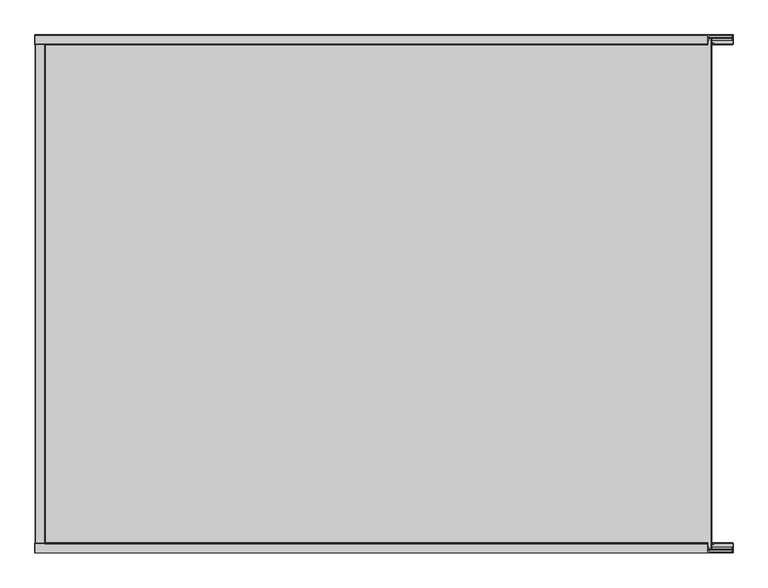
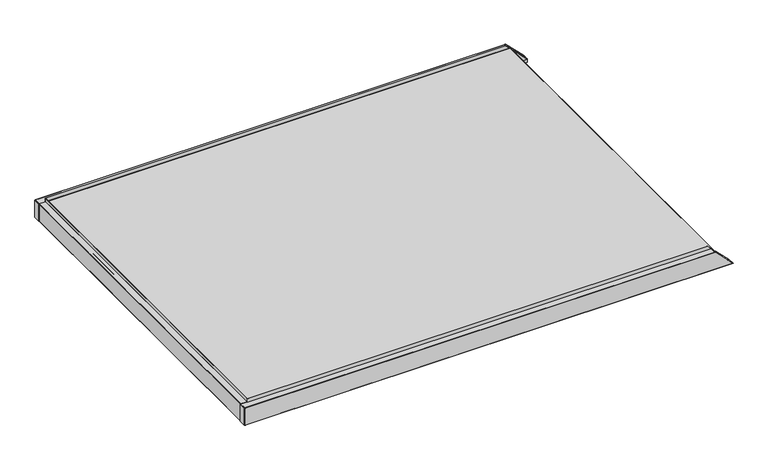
"""IFC4 building model written with IfcOpenShell, lengths in millimetres: proxy geometry, Specialy Equipment_Blindspace_Standard-Pockets-for-Roller-Blinds : 3500 mm x 2600 mm with 130 x 130 mm Box."""

from ifc_helpers import new_model, si_unit, point, frame, frame_2d, origin, place, context, project, spatial, polyline, circle_curve, ellipse_curve, trimmed, segment, composite_curve, outline, extrude, source, transform, mapped, element, save
from ifc_brep_helpers import plane_surface, cylinder_surface, advanced_brep


def specialty_equipment_aaa6b72d(model_context):
    return source(origin(), model_context, "Body", "SolidModel", [
        extrude(outline(polyline([(-1702.7519052, -1250.0), (-1704.2337728, -1250.0), (-1704.2337728, 1250.0), (-1702.7519052, 1250.0), (-1702.7519052, -1250.0)])), frame((0.0, 0.0, -25.0), z_axis=(0.0, 0.0, 1.0), x_axis=(1.0, 0.0, 0.0)), (0.0, 0.0, 1.0), 25.0211686),
        extrude(outline(polyline([(-1702.7519052, -1250.0), (-1704.2337728, -1250.0), (-1704.2337728, 1250.0), (-1702.7519052, 1250.0), (-1702.7519052, -1250.0)])), frame((0.0, 0.0, -180.0211687), z_axis=(0.0, 0.0, 1.0), x_axis=(1.0, 0.0, 0.0)), (0.0, 0.0, 1.0), 25.0211686),
        extrude(outline(composite_curve([segment(polyline([(-154.9999999, -1749.25), (-154.9999999, -1702.9175768), (-152.4999999, -1700.0), (-56.4999999, -1700.0), (-56.4999999, -1707.4875145), (-58.9999999, -1707.4875145), (-58.9999999, -1702.4875145), (-152.4999999, -1702.4875145), (-152.4999999, -1723.0149627), (-147.1999999, -1723.0149627), (-147.1999999, -1729.9597598), (-152.4999999, -1729.9597598), (-152.4999999, -1738.0030209), (-147.1999999, -1738.0030209), (-147.1999999, -1744.991), (-152.4999999, -1744.991), (-152.4999999, -1747.5), (-27.5, -1747.5), (-27.5, -1744.991), (-32.8, -1744.991), (-32.8, -1738.0030209), (-27.5, -1738.0030209), (-27.5, -1729.9597598), (-32.8, -1729.9597598), (-32.8, -1723.0149627), (-27.5, -1723.0149627), (-27.5, -1700.0), (-25.0, -1702.9175768), (-25.0, -1749.25)]), True, "CONTINUOUS"), segment(trimmed(circle_curve(frame_2d((-25.75, -1749.25)), 0.75), [point((-25.0, -1749.25))], [point((-25.75, -1750.0))], False, "CARTESIAN"), True, "CONTINUOUS"), segment(polyline([(-25.75, -1750.0), (-154.2499999, -1750.0)]), True, "CONTINUOUS"), segment(trimmed(circle_curve(frame_2d((-154.2499999, -1749.25)), 0.75), [point((-154.2499999, -1750.0))], [point((-154.9999999, -1749.25))], False, "CARTESIAN"), True, "CONTINUOUS")], self_intersect=False)), frame((0.0, -1250.0, 0.0), z_axis=(0.0, 1.0, 0.0), x_axis=(0.0, 0.0, 1.0)), (0.0, 0.0, 1.0), 2500.0),
        extrude(outline(polyline([(0.0211686, -1704.2), (-25.0, -1704.2), (-25.0, 1620.0), (0.0211686, 1594.9788314), (0.0211686, -1704.2)])), frame((0.0, -1254.2337728, 0.0), z_axis=(0.0, 1.0, 0.0), x_axis=(0.0, 0.0, 1.0)), (0.0, 0.0, 1.0), 1.4818676),
        extrude(outline(polyline([(-1704.2, -1254.2337728), (-1704.2, -1252.7519052), (1750.0, -1252.7519052), (1750.0, -1254.2337728), (-1704.2, -1254.2337728)])), frame((0.0, 0.0, -180.0211687), z_axis=(0.0, 0.0, 1.0), x_axis=(1.0, 0.0, 0.0)), (0.0, 0.0, 1.0), 25.0211686),
        advanced_brep(
        [(-1750.0, -1299.25, -154.9999999), (-1750.0, -1300.0, -154.2499999), (-1750.0, -1300.0, -25.75), (-1750.0, -1299.25, -25.0), (-1750.0, -1252.9175768, -25.0), (-1750.0, -1250.0, -27.5), (-1750.0, -1273.0149627, -27.5), (-1750.0, -1273.0149627, -32.8), (-1750.0, -1279.9597598, -32.8), (-1750.0, -1279.9597598, -27.5), (-1750.0, -1288.0030209, -27.5), (-1750.0, -1288.0030209, -32.8), (-1750.0, -1294.991, -32.8), (-1750.0, -1294.991, -27.5), (-1750.0, -1297.5, -27.5), (-1750.0, -1297.5, -152.4999999), (-1750.0, -1294.991, -152.4999999), (-1750.0, -1294.991, -147.1999999), (-1750.0, -1288.0030209, -147.1999999), (-1750.0, -1288.0030209, -152.4999999), (-1750.0, -1279.9597598, -152.4999999), (-1750.0, -1279.9597598, -147.1999999), (-1750.0, -1273.0149627, -147.1999999), (-1750.0, -1273.0149627, -152.4999999), (-1750.0, -1252.4875145, -152.4999999), (-1750.0, -1252.4875145, -58.9999999), (-1750.0, -1257.4875145, -58.9999999), (-1750.0, -1257.4875145, -56.4999999), (-1750.0, -1250.0, -56.4999999), (-1750.0, -1250.0, -152.4999999), (-1750.0, -1252.9175768, -154.9999999), (1750.0, -1252.9175768, -154.9999999), (1749.9999999, -1299.25, -154.9999999), (1747.4999999, -1250.0, -152.4999999), (1747.4999999, -1273.0149627, -152.4999999), (1747.4999999, -1252.4875145, -152.4999999), (1742.1999999, -1273.0149627, -147.1999999), (1742.1999999, -1279.9597598, -147.1999999), (1747.4999999, -1279.9597598, -152.4999999), (1747.4999999, -1288.0030209, -152.4999999), (1742.1999999, -1288.0030209, -147.1999999), (1742.1999999, -1294.991, -147.1999999), (1747.4999999, -1294.991, -152.4999999), (1747.4999999, -1297.5, -152.4999999), (1622.5, -1297.5, -27.5), (1622.5, -1294.991, -27.5), (1627.8, -1294.991, -32.8), (1627.8, -1288.0030209, -32.8), (1622.5, -1288.0030209, -27.5), (1622.5, -1279.9597598, -27.5), (1627.8, -1279.9597598, -32.8), (1627.8, -1273.0149627, -32.8), (1622.5, -1273.0149627, -27.5), (1622.5, -1250.0, -27.5), (1620.0, -1252.9175768, -25.0), (1620.0, -1299.25, -25.0), (1620.75, -1300.0, -25.75), (1749.2499999, -1300.0, -154.2499999), (1651.4999999, -1250.0, -56.4999999), (1651.4999999, -1257.4875145, -56.4999999), (1653.9999999, -1257.4875145, -58.9999999), (1653.9999999, -1252.4875145, -58.9999999)],
        [
            (0, 1, circle_curve(frame((-1750.0, -1299.25, -154.2499999), z_axis=(-1.0, 0.0, 0.0), x_axis=(0.0, 1.0, 0.0)), 0.75)),
            (1, 2),
            (2, 3, circle_curve(frame((-1750.0, -1299.25, -25.75), z_axis=(-1.0, 0.0, 0.0), x_axis=(0.0, 1.0, 0.0)), 0.75)),
            (3, 4),
            (4, 5),
            (5, 6),
            (6, 7),
            (7, 8),
            (8, 9),
            (9, 10),
            (10, 11),
            (11, 12),
            (12, 13),
            (13, 14),
            (14, 15),
            (15, 16),
            (16, 17),
            (17, 18),
            (18, 19),
            (19, 20),
            (20, 21),
            (21, 22),
            (22, 23),
            (23, 24),
            (24, 25),
            (25, 26),
            (26, 27),
            (27, 28),
            (28, 29),
            (29, 30),
            (30, 0),
            (30, 31),
            (31, 32),
            (32, 0),
            (29, 33),
            (33, 31),
            (23, 34),
            (34, 35),
            (35, 24),
            (22, 36),
            (36, 34),
            (21, 37),
            (37, 36),
            (20, 38),
            (38, 37),
            (19, 39),
            (39, 38),
            (18, 40),
            (40, 39),
            (17, 41),
            (41, 40),
            (16, 42),
            (42, 41),
            (15, 43),
            (43, 42),
            (14, 44),
            (44, 43),
            (13, 45),
            (45, 44),
            (12, 46),
            (46, 45),
            (11, 47),
            (47, 46),
            (10, 48),
            (48, 47),
            (9, 49),
            (49, 48),
            (8, 50),
            (50, 49),
            (7, 51),
            (51, 50),
            (6, 52),
            (52, 51),
            (5, 53),
            (53, 52),
            (4, 54),
            (54, 53),
            (3, 55),
            (55, 54),
            (2, 56),
            (56, 55, ellipse_curve(frame((1620.75, -1299.25, -25.75), z_axis=(-0.7071067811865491, 0.0, -0.7071067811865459), x_axis=(-0.707106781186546, 0.0, 0.7071067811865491)), 1.0606602, 0.75)),
            (1, 57),
            (57, 56),
            (32, 57, ellipse_curve(frame((1749.2499999, -1299.25, -154.2499999), z_axis=(-0.7071067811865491, 0.0, -0.7071067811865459), x_axis=(-0.707106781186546, 0.0, 0.7071067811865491)), 1.0606602, 0.75)),
            (28, 58),
            (58, 33),
            (27, 59),
            (59, 58),
            (26, 60),
            (60, 59),
            (25, 61),
            (61, 60),
            (35, 61),
        ],
        [
            plane_surface(frame((-1750.0, -1300.0, -25.0), z_axis=(-1.0, 0.0, 0.0), x_axis=(0.0, 0.0, 1.0))),
            plane_surface(frame((-1750.0, -1252.9175768, -154.9999999), z_axis=(0.0, 0.0, -1.0), x_axis=(1.0, 0.0, 0.0))),
            plane_surface(frame((-1750.0, -1250.0, -152.4999999), z_axis=(0.0, 0.650674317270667, -0.7593569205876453), x_axis=(1.0, 0.0, 0.0))),
            plane_surface(frame((-1750.0, -1273.0149627, -152.4999999), z_axis=(0.0, 0.0, 1.0), x_axis=(1.0, 0.0, 0.0))),
            plane_surface(frame((-1750.0, -1273.0149627, -147.1999999), z_axis=(0.0, 1.0, 0.0), x_axis=(1.0, 0.0, 0.0))),
            plane_surface(frame((-1750.0, -1279.9597598, -147.1999999), z_axis=(0.0, 0.0, 1.0), x_axis=(1.0, 0.0, 0.0))),
            plane_surface(frame((-1750.0, -1279.9597598, -152.4999999), z_axis=(0.0, -1.0, 0.0), x_axis=(1.0, 0.0, 0.0))),
            plane_surface(frame((-1750.0, -1288.0030209, -152.4999999), z_axis=(0.0, 0.0, 1.0), x_axis=(1.0, 0.0, 0.0))),
            plane_surface(frame((-1750.0, -1288.0030209, -147.1999999), z_axis=(0.0, 1.0, 0.0), x_axis=(1.0, 0.0, 0.0))),
            plane_surface(frame((-1750.0, -1294.991, -147.1999999), z_axis=(0.0, 0.0, 1.0), x_axis=(1.0, 0.0, 0.0))),
            plane_surface(frame((-1750.0, -1294.991, -152.4999999), z_axis=(0.0, -1.0, 0.0), x_axis=(1.0, 0.0, 0.0))),
            plane_surface(frame((-1750.0, -1297.5, -152.4999999), z_axis=(0.0, 0.0, 1.0), x_axis=(1.0, 0.0, 0.0))),
            plane_surface(frame((-1750.0, -1297.5, -27.5), z_axis=(0.0, 1.0, 0.0), x_axis=(1.0, 0.0, 0.0))),
            plane_surface(frame((-1750.0, -1294.991, -27.5), z_axis=(0.0, 0.0, -1.0), x_axis=(1.0, 0.0, 0.0))),
            plane_surface(frame((-1750.0, -1294.991, -32.8), z_axis=(0.0, -1.0, 0.0), x_axis=(1.0, 0.0, 0.0))),
            plane_surface(frame((-1750.0, -1288.0030209, -32.8), z_axis=(0.0, 0.0, -1.0), x_axis=(1.0, 0.0, 0.0))),
            plane_surface(frame((-1750.0, -1288.0030209, -27.5), z_axis=(0.0, 1.0, 0.0), x_axis=(1.0, 0.0, 0.0))),
            plane_surface(frame((-1750.0, -1279.9597598, -27.5), z_axis=(0.0, 0.0, -1.0), x_axis=(1.0, 0.0, 0.0))),
            plane_surface(frame((-1750.0, -1279.9597598, -32.8), z_axis=(0.0, -1.0, 0.0), x_axis=(1.0, 0.0, 0.0))),
            plane_surface(frame((-1750.0, -1273.0149627, -32.8), z_axis=(0.0, 0.0, -1.0), x_axis=(1.0, 0.0, 0.0))),
            plane_surface(frame((-1750.0, -1273.0149627, -27.5), z_axis=(0.0, 1.0, 0.0), x_axis=(1.0, 0.0, 0.0))),
            plane_surface(frame((-1750.0, -1250.0, -27.5), z_axis=(0.0, 0.0, -1.0), x_axis=(1.0, 0.0, 0.0))),
            plane_surface(frame((-1750.0, -1252.9175768, -25.0), z_axis=(0.0, 0.6506743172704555, 0.7593569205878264), x_axis=(1.0, 0.0, 0.0))),
            plane_surface(frame((-1750.0, -1299.25, -25.0), z_axis=(0.0, 0.0, 1.0), x_axis=(1.0, 0.0, 0.0))),
            cylinder_surface(frame((-1750.0, -1299.25, -25.75), z_axis=(-1.0, 0.0, 0.0), x_axis=(0.0, 1.0, 0.0)), 0.75),
            plane_surface(frame((-1750.0, -1300.0, -154.2499999), z_axis=(0.0, -1.0, 0.0), x_axis=(1.0, 0.0, 0.0))),
            cylinder_surface(frame((-1750.0, -1299.25, -154.2499999), z_axis=(-1.0, 0.0, 0.0), x_axis=(0.0, 1.0, 0.0)), 0.75),
            plane_surface(frame((-1750.0, -1250.0, -56.4999999), z_axis=(0.0, 1.0, 0.0), x_axis=(1.0, 0.0, 0.0))),
            plane_surface(frame((-1750.0, -1257.4875145, -56.4999999), z_axis=(0.0, 0.0, 1.0), x_axis=(1.0, 0.0, 0.0))),
            plane_surface(frame((-1750.0, -1257.4875145, -58.9999999), z_axis=(0.0, -1.0, 0.0), x_axis=(1.0, 0.0, 0.0))),
            plane_surface(frame((-1750.0, -1252.4875145, -58.9999999), z_axis=(0.0, 0.0, -1.0), x_axis=(1.0, 0.0, 0.0))),
            plane_surface(frame((-1750.0, -1252.4875145, -152.4999999), z_axis=(0.0, -1.0, 0.0), x_axis=(1.0, 0.0, 0.0))),
            plane_surface(frame((1571.0, -1300.0, 24.0), z_axis=(0.7071067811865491, 0.0, 0.7071067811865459), x_axis=(0.0, 1.0, 0.0))),
        ],
        [
            (0, [[1, 2, 3, 4, 5, 6, 7, 8, 9, 10, 11, 12, 13, 14, 15, 16, 17, 18, 19, 20, 21, 22, 23, 24, 25, 26, 27, 28, 29, 30, 31]]),
            (1, [[-31, 32, 33, 34]]),
            (2, [[-30, 35, 36, -32]]),
            (3, [[-24, 37, 38, 39]]),
            (4, [[-23, 40, 41, -37]]),
            (5, [[-22, 42, 43, -40]]),
            (6, [[-21, 44, 45, -42]]),
            (7, [[-20, 46, 47, -44]]),
            (8, [[-19, 48, 49, -46]]),
            (9, [[-18, 50, 51, -48]]),
            (10, [[-17, 52, 53, -50]]),
            (11, [[-16, 54, 55, -52]]),
            (12, [[-15, 56, 57, -54]]),
            (13, [[-14, 58, 59, -56]]),
            (14, [[-13, 60, 61, -58]]),
            (15, [[-12, 62, 63, -60]]),
            (16, [[-11, 64, 65, -62]]),
            (17, [[-10, 66, 67, -64]]),
            (18, [[-9, 68, 69, -66]]),
            (19, [[-8, 70, 71, -68]]),
            (20, [[-7, 72, 73, -70]]),
            (21, [[-6, 74, 75, -72]]),
            (22, [[-5, 76, 77, -74]]),
            (23, [[-4, 78, 79, -76]]),
            (24, [[-3, 80, 81, -78]]),
            (25, [[-2, 82, 83, -80]]),
            (26, [[-1, -34, 84, -82]]),
            (27, [[-29, 85, 86, -35]]),
            (28, [[-28, 87, 88, -85]]),
            (29, [[-27, 89, 90, -87]]),
            (30, [[-26, 91, 92, -89]]),
            (31, [[-25, -39, 93, -91]]),
            (32, [[-33, -36, -86, -88, -90, -92, -93, -38, -41, -43, -45, -47, -49, -51, -53, -55, -57, -59, -61, -63, -65, -67, -69, -71, -73, -75, -77, -79, -81, -83, -84]]),
        ],
    ),
        extrude(outline(polyline([(0.0211686, -1704.2337728), (-25.0, -1704.2337728), (-25.0, 1620.0), (0.0211686, 1594.9788314), (0.0211686, -1704.2337728)])), frame((0.0, 1252.7519052, 0.0), z_axis=(0.0, 1.0, 0.0), x_axis=(0.0, 0.0, 1.0)), (0.0, 0.0, 1.0), 1.4818676),
        extrude(outline(polyline([(-1704.2337728, 1252.7519052), (-1704.2337728, 1254.2337728), (1750.0337728, 1254.2337728), (1750.0337728, 1252.7519052), (-1704.2337728, 1252.7519052)])), frame((0.0, 0.0, -180.0211687), z_axis=(0.0, 0.0, 1.0), x_axis=(1.0, 0.0, 0.0)), (0.0, 0.0, 1.0), 25.0211686),
        advanced_brep(
        [(-1750.0, 1299.25, -154.9999999), (-1750.0, 1252.9175768, -154.9999999), (-1750.0, 1250.0, -152.4999999), (-1750.0, 1250.0, -56.4999999), (-1750.0, 1257.4875145, -56.4999999), (-1750.0, 1257.4875145, -58.9999999), (-1750.0, 1252.4875145, -58.9999999), (-1750.0, 1252.4875145, -152.4999999), (-1750.0, 1273.0149627, -152.4999999), (-1750.0, 1273.0149627, -147.1999999), (-1750.0, 1279.9597598, -147.1999999), (-1750.0, 1279.9597598, -152.4999999), (-1750.0, 1288.0030209, -152.4999999), (-1750.0, 1288.0030209, -147.1999999), (-1750.0, 1294.991, -147.1999999), (-1750.0, 1294.991, -152.4999999), (-1750.0, 1297.5, -152.4999999), (-1750.0, 1297.5, -27.5), (-1750.0, 1294.991, -27.5), (-1750.0, 1294.991, -32.8), (-1750.0, 1288.0030209, -32.8), (-1750.0, 1288.0030209, -27.5), (-1750.0, 1279.9597598, -27.5), (-1750.0, 1279.9597598, -32.8), (-1750.0, 1273.0149627, -32.8), (-1750.0, 1273.0149627, -27.5), (-1750.0, 1250.0, -27.5), (-1750.0, 1252.9175768, -25.0), (-1750.0, 1299.25, -25.0), (-1750.0, 1300.0, -25.75), (-1750.0, 1300.0, -154.2499999), (1750.0, 1299.25, -154.9999999), (1749.9999999, 1252.9175768, -154.9999999), (1747.4999999, 1250.0, -152.4999999), (1747.4999999, 1252.4875145, -152.4999999), (1747.4999999, 1273.0149627, -152.4999999), (1742.1999999, 1273.0149627, -147.1999999), (1742.1999999, 1279.9597598, -147.1999999), (1747.4999999, 1279.9597598, -152.4999999), (1747.4999999, 1288.0030209, -152.4999999), (1742.1999999, 1288.0030209, -147.1999999), (1742.1999999, 1294.991, -147.1999999), (1747.4999999, 1294.991, -152.4999999), (1747.4999999, 1297.5, -152.4999999), (1622.5, 1297.5, -27.5), (1622.5, 1294.991, -27.5), (1627.8, 1294.991, -32.8), (1627.8, 1288.0030209, -32.8), (1622.5, 1288.0030209, -27.5), (1622.5, 1279.9597598, -27.5), (1627.8, 1279.9597598, -32.8), (1627.8, 1273.0149627, -32.8), (1622.5, 1273.0149627, -27.5), (1622.5, 1250.0, -27.5), (1620.0, 1252.9175768, -25.0), (1620.0, 1299.25, -25.0), (1620.75, 1300.0, -25.75), (1749.2499999, 1300.0, -154.2499999), (1651.4999999, 1250.0, -56.4999999), (1651.4999999, 1257.4875145, -56.4999999), (1653.9999999, 1257.4875145, -58.9999999), (1653.9999999, 1252.4875145, -58.9999999)],
        [
            (0, 1),
            (1, 2),
            (2, 3),
            (3, 4),
            (4, 5),
            (5, 6),
            (6, 7),
            (7, 8),
            (8, 9),
            (9, 10),
            (10, 11),
            (11, 12),
            (12, 13),
            (13, 14),
            (14, 15),
            (15, 16),
            (16, 17),
            (17, 18),
            (18, 19),
            (19, 20),
            (20, 21),
            (21, 22),
            (22, 23),
            (23, 24),
            (24, 25),
            (25, 26),
            (26, 27),
            (27, 28),
            (28, 29, circle_curve(frame((-1750.0, 1299.25, -25.75), z_axis=(-1.0, 0.0, 0.0), x_axis=(0.0, 1.0, 0.0)), 0.75)),
            (29, 30),
            (30, 0, circle_curve(frame((-1750.0, 1299.25, -154.2499999), z_axis=(-1.0, 0.0, 0.0), x_axis=(0.0, 1.0, 0.0)), 0.75)),
            (0, 31),
            (31, 32),
            (32, 1),
            (32, 33),
            (33, 2),
            (7, 34),
            (34, 35),
            (35, 8),
            (35, 36),
            (36, 9),
            (36, 37),
            (37, 10),
            (37, 38),
            (38, 11),
            (38, 39),
            (39, 12),
            (39, 40),
            (40, 13),
            (40, 41),
            (41, 14),
            (41, 42),
            (42, 15),
            (42, 43),
            (43, 16),
            (43, 44),
            (44, 17),
            (44, 45),
            (45, 18),
            (45, 46),
            (46, 19),
            (46, 47),
            (47, 20),
            (47, 48),
            (48, 21),
            (48, 49),
            (49, 22),
            (49, 50),
            (50, 23),
            (50, 51),
            (51, 24),
            (51, 52),
            (52, 25),
            (52, 53),
            (53, 26),
            (53, 54),
            (54, 27),
            (54, 55),
            (55, 28),
            (55, 56, ellipse_curve(frame((1620.75, 1299.25, -25.75), z_axis=(-0.7071067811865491, 0.0, -0.7071067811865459), x_axis=(-0.707106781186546, 0.0, 0.7071067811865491)), 1.0606602, 0.75)),
            (56, 29),
            (56, 57),
            (57, 30),
            (57, 31, ellipse_curve(frame((1749.2499999, 1299.25, -154.2499999), z_axis=(-0.7071067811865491, 0.0, -0.7071067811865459), x_axis=(-0.707106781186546, 0.0, 0.7071067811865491)), 1.0606602, 0.75)),
            (33, 58),
            (58, 3),
            (58, 59),
            (59, 4),
            (59, 60),
            (60, 5),
            (60, 61),
            (61, 6),
            (61, 34),
        ],
        [
            plane_surface(frame((-1750.0, 1300.0, -25.0), z_axis=(-1.0, 0.0, 0.0), x_axis=(0.0, 0.0, 1.0))),
            plane_surface(frame((-1750.0, 1299.25, -154.9999999), z_axis=(0.0, 0.0, -1.0), x_axis=(1.0, 0.0, 0.0))),
            plane_surface(frame((-1750.0, 1252.9175768, -154.9999999), z_axis=(0.0, -0.6506743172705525, -0.7593569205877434), x_axis=(1.0, 0.0, 0.0))),
            plane_surface(frame((-1750.0, 1252.4875145, -152.4999999), z_axis=(0.0, 0.0, 1.0), x_axis=(1.0, 0.0, 0.0))),
            plane_surface(frame((-1750.0, 1273.0149627, -152.4999999), z_axis=(0.0, -1.0, 0.0), x_axis=(1.0, 0.0, 0.0))),
            plane_surface(frame((-1750.0, 1273.0149627, -147.1999999), z_axis=(0.0, 0.0, 1.0), x_axis=(1.0, 0.0, 0.0))),
            plane_surface(frame((-1750.0, 1279.9597598, -147.1999999), z_axis=(0.0, 1.0, 0.0), x_axis=(1.0, 0.0, 0.0))),
            plane_surface(frame((-1750.0, 1279.9597598, -152.4999999), z_axis=(0.0, 0.0, 1.0), x_axis=(1.0, 0.0, 0.0))),
            plane_surface(frame((-1750.0, 1288.0030209, -152.4999999), z_axis=(0.0, -1.0, 0.0), x_axis=(1.0, 0.0, 0.0))),
            plane_surface(frame((-1750.0, 1288.0030209, -147.1999999), z_axis=(0.0, 0.0, 1.0), x_axis=(1.0, 0.0, 0.0))),
            plane_surface(frame((-1750.0, 1294.991, -147.1999999), z_axis=(0.0, 1.0, 0.0), x_axis=(1.0, 0.0, 0.0))),
            plane_surface(frame((-1750.0, 1294.991, -152.4999999), z_axis=(0.0, 0.0, 1.0), x_axis=(1.0, 0.0, 0.0))),
            plane_surface(frame((-1750.0, 1297.5, -152.4999999), z_axis=(0.0, -1.0, 0.0), x_axis=(1.0, 0.0, 0.0))),
            plane_surface(frame((-1750.0, 1297.5, -27.5), z_axis=(0.0, 0.0, -1.0), x_axis=(1.0, 0.0, 0.0))),
            plane_surface(frame((-1750.0, 1294.991, -27.5), z_axis=(0.0, 1.0, 0.0), x_axis=(1.0, 0.0, 0.0))),
            plane_surface(frame((-1750.0, 1294.991, -32.8), z_axis=(0.0, 0.0, -1.0), x_axis=(1.0, 0.0, 0.0))),
            plane_surface(frame((-1750.0, 1288.0030209, -32.8), z_axis=(0.0, -1.0, 0.0), x_axis=(1.0, 0.0, 0.0))),
            plane_surface(frame((-1750.0, 1288.0030209, -27.5), z_axis=(0.0, 0.0, -1.0), x_axis=(1.0, 0.0, 0.0))),
            plane_surface(frame((-1750.0, 1279.9597598, -27.5), z_axis=(0.0, 1.0, 0.0), x_axis=(1.0, 0.0, 0.0))),
            plane_surface(frame((-1750.0, 1279.9597598, -32.8), z_axis=(0.0, 0.0, -1.0), x_axis=(1.0, 0.0, 0.0))),
            plane_surface(frame((-1750.0, 1273.0149627, -32.8), z_axis=(0.0, -1.0, 0.0), x_axis=(1.0, 0.0, 0.0))),
            plane_surface(frame((-1750.0, 1273.0149627, -27.5), z_axis=(0.0, 0.0, -1.0), x_axis=(1.0, 0.0, 0.0))),
            plane_surface(frame((-1750.0, 1250.0, -27.5), z_axis=(0.0, -0.6506743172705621, 0.7593569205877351), x_axis=(1.0, 0.0, 0.0))),
            plane_surface(frame((-1750.0, 1252.9175768, -25.0), z_axis=(0.0, 0.0, 1.0), x_axis=(1.0, 0.0, 0.0))),
            cylinder_surface(frame((-1750.0, 1299.25, -25.75), z_axis=(-1.0, 0.0, 0.0), x_axis=(0.0, 1.0, 0.0)), 0.75),
            plane_surface(frame((-1750.0, 1300.0, -25.75), z_axis=(0.0, 1.0, 0.0), x_axis=(1.0, 0.0, 0.0))),
            cylinder_surface(frame((-1750.0, 1299.25, -154.2499999), z_axis=(-1.0, 0.0, 0.0), x_axis=(0.0, 1.0, 0.0)), 0.75),
            plane_surface(frame((-1750.0, 1250.0, -152.4999999), z_axis=(0.0, -1.0, 0.0), x_axis=(1.0, 0.0, 0.0))),
            plane_surface(frame((-1750.0, 1250.0, -56.4999999), z_axis=(0.0, 0.0, 1.0), x_axis=(1.0, 0.0, 0.0))),
            plane_surface(frame((-1750.0, 1257.4875145, -56.4999999), z_axis=(0.0, 1.0, 0.0), x_axis=(1.0, 0.0, 0.0))),
            plane_surface(frame((-1750.0, 1257.4875145, -58.9999999), z_axis=(0.0, 0.0, -1.0), x_axis=(1.0, 0.0, 0.0))),
            plane_surface(frame((-1750.0, 1252.4875145, -58.9999999), z_axis=(0.0, 1.0, 0.0), x_axis=(1.0, 0.0, 0.0))),
            plane_surface(frame((1571.0, -1300.0, 24.0), z_axis=(0.7071067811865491, 0.0, 0.7071067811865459), x_axis=(0.0, 1.0, 0.0))),
        ],
        [
            (0, [[1, 2, 3, 4, 5, 6, 7, 8, 9, 10, 11, 12, 13, 14, 15, 16, 17, 18, 19, 20, 21, 22, 23, 24, 25, 26, 27, 28, 29, 30, 31]]),
            (1, [[-1, 32, 33, 34]]),
            (2, [[-2, -34, 35, 36]]),
            (3, [[-8, 37, 38, 39]]),
            (4, [[-9, -39, 40, 41]]),
            (5, [[-10, -41, 42, 43]]),
            (6, [[-11, -43, 44, 45]]),
            (7, [[-12, -45, 46, 47]]),
            (8, [[-13, -47, 48, 49]]),
            (9, [[-14, -49, 50, 51]]),
            (10, [[-15, -51, 52, 53]]),
            (11, [[-16, -53, 54, 55]]),
            (12, [[-17, -55, 56, 57]]),
            (13, [[-18, -57, 58, 59]]),
            (14, [[-19, -59, 60, 61]]),
            (15, [[-20, -61, 62, 63]]),
            (16, [[-21, -63, 64, 65]]),
            (17, [[-22, -65, 66, 67]]),
            (18, [[-23, -67, 68, 69]]),
            (19, [[-24, -69, 70, 71]]),
            (20, [[-25, -71, 72, 73]]),
            (21, [[-26, -73, 74, 75]]),
            (22, [[-27, -75, 76, 77]]),
            (23, [[-28, -77, 78, 79]]),
            (24, [[-29, -79, 80, 81]]),
            (25, [[-30, -81, 82, 83]]),
            (26, [[-31, -83, 84, -32]]),
            (27, [[-3, -36, 85, 86]]),
            (28, [[-4, -86, 87, 88]]),
            (29, [[-5, -88, 89, 90]]),
            (30, [[-6, -90, 91, 92]]),
            (31, [[-7, -92, 93, -37]]),
            (32, [[-33, -84, -82, -80, -78, -76, -74, -72, -70, -68, -66, -64, -62, -60, -58, -56, -54, -52, -50, -48, -46, -44, -42, -40, -38, -93, -91, -89, -87, -85, -35]]),
        ],
    ),
        extrude(outline(polyline([(-41.9999999, -1730.0), (-46.9999999, -1730.0), (-46.9999999, 1641.9999999), (-41.9999999, 1636.9999999), (-41.9999999, -1730.0)])), frame((0.0, -1280.0, 0.0), z_axis=(0.0, 1.0, 0.0), x_axis=(0.0, 0.0, 1.0)), (0.0, 0.0, 1.0), 2560.0),
        extrude(outline(polyline([(-1752.5, -1300.0), (-1752.5, -1250.0), (-1750.0, -1250.0), (-1750.0, -1300.0), (-1752.5, -1300.0)])), frame((0.0, 0.0, -155.0), z_axis=(0.0, 0.0, 1.0), x_axis=(1.0, 0.0, 0.0)), (0.0, 0.0, 1.0), 130.0),
        extrude(outline(polyline([(-1752.5, 1300.0), (-1750.0, 1300.0), (-1750.0, 1250.0), (-1752.5, 1250.0), (-1752.5, 1300.0)])), frame((0.0, 0.0, -155.0), z_axis=(0.0, 0.0, 1.0), x_axis=(1.0, 0.0, 0.0)), (0.0, 0.0, 1.0), 130.0),
    ])


if __name__ == "__main__":
    model = new_model("IFC4")
    model_context = context("Model", 3, world=origin())
    ifc_project = project(units=[si_unit("LENGTHUNIT", "METRE", prefix="MILLI")], contexts=[model_context])
    site = spatial("IfcSite", under=ifc_project)
    building = spatial("IfcBuilding", under=site)
    placement = place(None, origin())
    specialty_equipment_shape = specialty_equipment_aaa6b72d(model_context)
    element("IfcBuildingElementProxy", 1, Name="Specialy Equipment_Blindspace_Standard-Pockets-for-Roller-Blinds : 3500 mm x 2600 mm with 130 x 130 mm Box", ObjectType="Specialy Equipment_Blindspace_Standard-Pockets-for-Roller-Blinds : 3500 mm x 2600 mm with 130 x 130 mm Box", at=placement, inside=building, context=model_context, shape_type="MappedRepresentation", body=[
        mapped(specialty_equipment_shape, transform((0.0, 0.0, 0.0), x_axis=(1.0, 0.0, 0.0), y_axis=(0.0, 1.0, 0.0), z_axis=(0.0, 0.0, 1.0))),
    ])
    save(model, "model.ifc")
